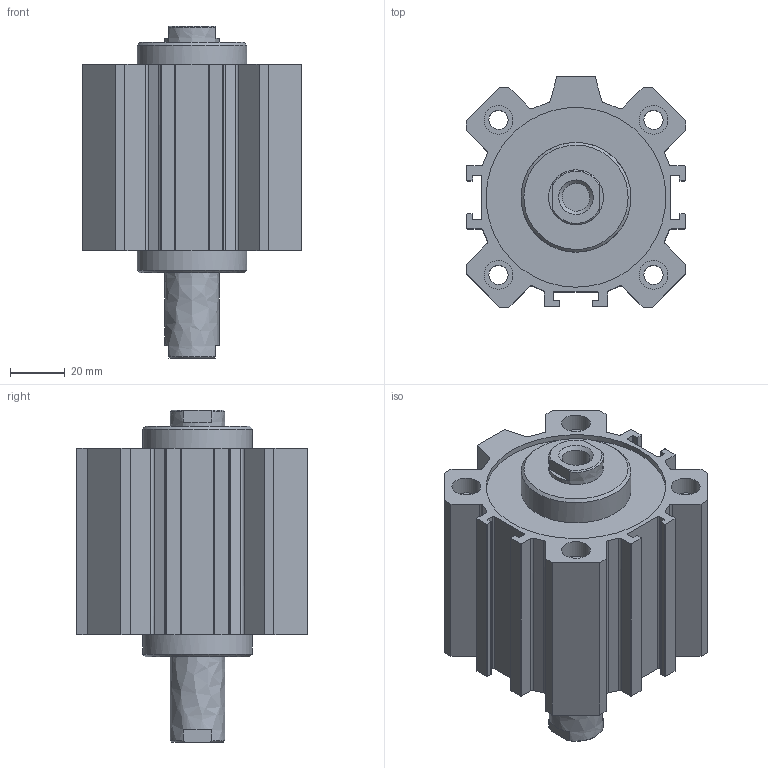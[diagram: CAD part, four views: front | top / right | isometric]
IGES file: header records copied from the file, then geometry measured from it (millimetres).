
Global section: file name: 1514_63_0025; native system: Autodesk Inventor 2014; preprocessor: unknown; author: A. Manieri; date: 20160824.140235; units: millimetre
Bounding box: 80 x 84 x 121 mm (x, y, z)
Volume: 300501.7 mm3; surface area: 81396 mm2
Topology: 2 solids, 2 shells, 178 faces, 482 edges, 328 vertices
Faces by surface type: bspline 178
